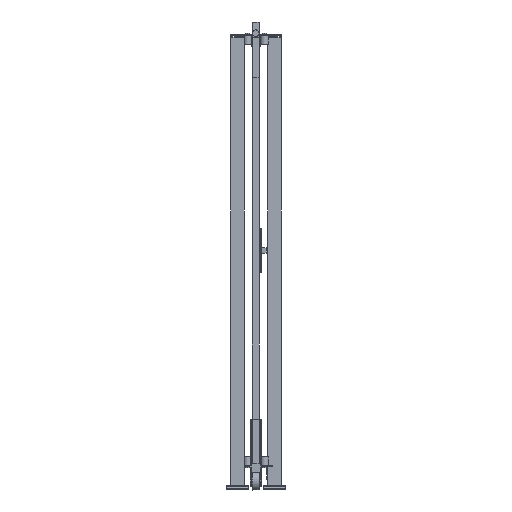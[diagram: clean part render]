
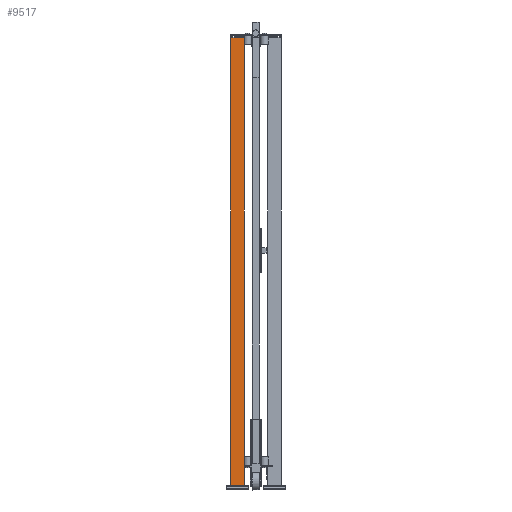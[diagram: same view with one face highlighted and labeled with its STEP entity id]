
A CAD part, left-side view. The second image highlights one B-rep face of the part: STEP entity #9517.
In plain terms, the highlighted planar face has unit normal (-1, 0, 0) as drawn and (0, 1, 0) by its records, which use the part's own axes.
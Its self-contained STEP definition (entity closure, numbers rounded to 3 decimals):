
#975=FACE_OUTER_BOUND('',#1689,.T.);
#1689=EDGE_LOOP('',(#6015,#6016,#6017,#6018));
#2512=VERTEX_POINT('',#20221);
#2513=VERTEX_POINT('',#20223);
#2515=VERTEX_POINT('',#20229);
#2518=VERTEX_POINT('',#20234);
#3888=EDGE_CURVE('',#2512,#2513,#11254,.T.);
#3894=EDGE_CURVE('',#2518,#2515,#11260,.T.);
#3897=EDGE_CURVE('',#2513,#2518,#11263,.T.);
#3898=EDGE_CURVE('',#2512,#2515,#11264,.T.);
#6015=ORIENTED_EDGE('',*,*,#3898,.T.);
#6016=ORIENTED_EDGE('',*,*,#3894,.F.);
#6017=ORIENTED_EDGE('',*,*,#3897,.F.);
#6018=ORIENTED_EDGE('',*,*,#3888,.F.);
#8863=PLANE('',#14350);
#9517=ADVANCED_FACE('',(#975),#8863,.F.);
#11254=LINE('',#20224,#12962);
#11260=LINE('',#20236,#12968);
#11263=LINE('',#20241,#12971);
#11264=LINE('',#20243,#12972);
#12962=VECTOR('',#16013,1.);
#12968=VECTOR('',#16021,1.);
#12971=VECTOR('',#16028,1.);
#12972=VECTOR('',#16031,1.);
#14350=AXIS2_PLACEMENT_3D('',#20242,#16029,#16030);
#16013=DIRECTION('',(-1.,0.,0.));
#16021=DIRECTION('',(1.,0.,0.));
#16028=DIRECTION('',(0.,0.,-1.));
#16029=DIRECTION('center_axis',(0.,-1.,0.));
#16030=DIRECTION('ref_axis',(0.,0.,-1.));
#16031=DIRECTION('',(0.,0.,-1.));
#20221=CARTESIAN_POINT('',(30.,30.,2020.));
#20223=CARTESIAN_POINT('',(-30.,30.,2020.));
#20224=CARTESIAN_POINT('',(0.,30.,2020.));
#20229=CARTESIAN_POINT('',(30.,30.,20.));
#20234=CARTESIAN_POINT('',(-30.,30.,20.));
#20236=CARTESIAN_POINT('',(0.,30.,20.));
#20241=CARTESIAN_POINT('',(-30.,30.,1020.));
#20242=CARTESIAN_POINT('Origin',(0.,30.,
1020.));
#20243=CARTESIAN_POINT('',(30.,30.,1020.));
